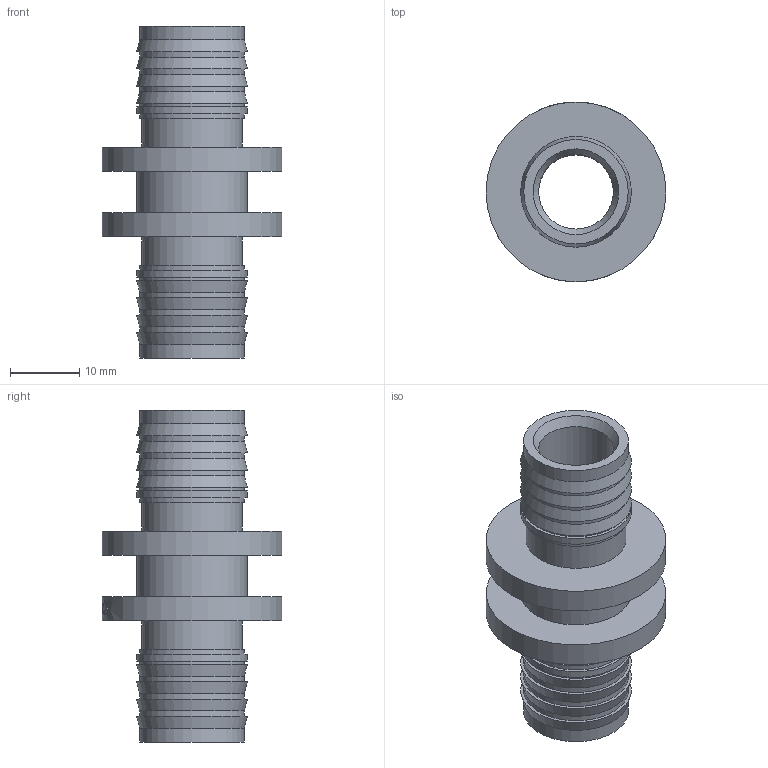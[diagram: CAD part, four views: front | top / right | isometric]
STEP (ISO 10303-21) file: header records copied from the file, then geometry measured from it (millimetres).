
FILE_DESCRIPTION(/* description */ (''),/* implementation_level */ '2;1');
FILE_NAME(/* name */ 'C:\Users\Doom\Desktop\Фадотех\Натяжка\FD-SFM02NEW 26.12.2019\FD-SFM02NEW 26.12.2019.stp',/* time_stamp */ '2022-07-21T16:53:02+03:00',/* author */ ('Doom'),/* organization */ (''),/* preprocessor_version */ 'ST-DEVELOPER v18',/* originating_system */ 'Autodesk Inventor 2020',/* authorisation */ '');
FILE_SCHEMA (('AUTOMOTIVE_DESIGN { 1 0 10303 214 3 1 1 }'));
Length unit declared in the file: millimetre
Products named in the file (1): FD-SFM02NEW 26.12.2019
Bounding box: 26 x 26 x 48 mm (x, y, z)
Volume: 6830 mm3; surface area: 6029.6 mm2
Topology: 1 solids, 1 shells, 147 faces, 394 edges, 276 vertices
Faces by surface type: bspline 63, plane 45, cylinder 29, cone 10
Full cylindrical faces by diameter (mm): 10.8 x1, 14.5 x2, 15.1 x12, 16 x3, 26 x2
Entity records: 6162 total; most frequent: CARTESIAN_POINT 2693, ORIENTED_EDGE 788, DIRECTION 566, EDGE_CURVE 394, VERTEX_POINT 276, AXIS2_PLACEMENT_3D 213, EDGE_LOOP 176, FACE_OUTER_BOUND 147
